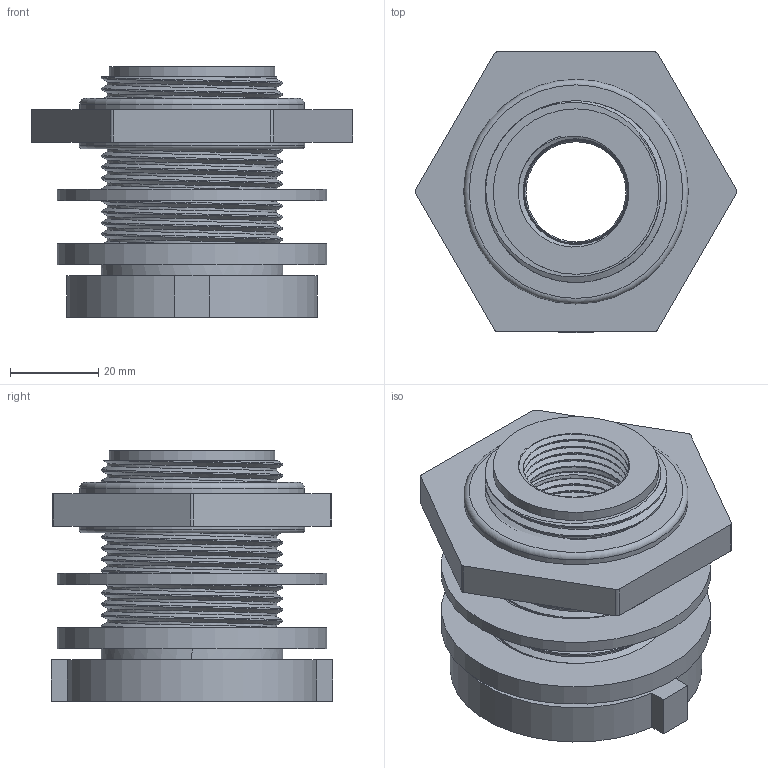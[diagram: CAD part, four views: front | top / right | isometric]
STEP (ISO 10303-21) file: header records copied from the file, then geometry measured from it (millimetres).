
FILE_DESCRIPTION(/* description */ ('Alibre Inc.'),/* implementation_level */ '2;1');
FILE_NAME(/* name */ 'export0',/* time_stamp */ '2017-10-21T11:53:52-04:00',/* author */ (''),/* organization */ (''),/* preprocessor_version */ 'ST-DEVELOPER v14',/* originating_system */ 'Alibre',/* authorisation */ '');
FILE_SCHEMA (('CONFIG_CONTROL_DESIGN'));
Products named in the file (5): ID_1; ID_2
Bounding box: 73.09 x 64.01 x 57.02 mm (x, y, z)
Volume: 87101.2 mm3; surface area: 40209.2 mm2
Topology: 4 solids, 4 shells, 199 faces, 552 edges, 367 vertices
Faces by surface type: cone 88, cylinder 62, plane 29, bspline 18, torus 2
Full cylindrical faces by diameter (mm): 37.592 x1, 42.672 x2, 51.054 x1, 51.308 x1, 61.214 x2
Entity records: 94740 total; most frequent: CARTESIAN_POINT 89916, ORIENTED_EDGE 1084, DIRECTION 642, EDGE_CURVE 542, VERTEX_POINT 366, AXIS2_PLACEMENT_3D 253, EDGE_LOOP 222, FACE_BOUND 222
